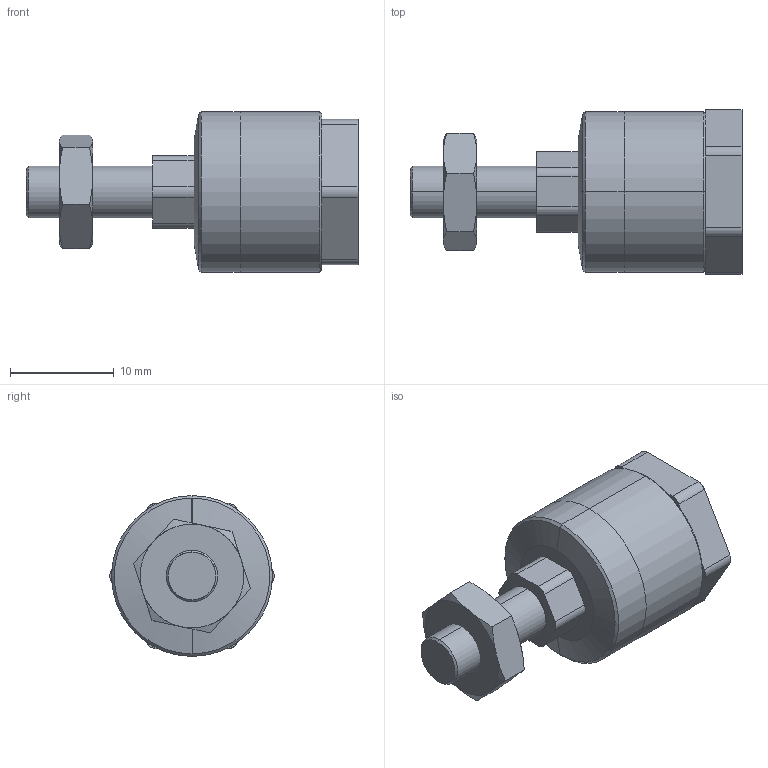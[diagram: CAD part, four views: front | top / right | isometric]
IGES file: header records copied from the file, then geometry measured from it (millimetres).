
Start section: SolidWorks IGES file using analytic representation for surfaces
Global section: file name: D:\MI\新增資料夾\FC\FCM5-0.8.IGS; native system: SolidWorks 2013; preprocessor: SolidWorks 2013; author: Sam Lin; date: 160323.113942; units: millimetre
Bounding box: 32 x 15.86 x 15.5 mm (x, y, z)
Surface area: 1782.1 mm2 (no closed solid volume)
Topology: 0 solids, 0 shells, 80 faces, 800 edges, 798 vertices
Faces by surface type: bspline 48, revolution 32
